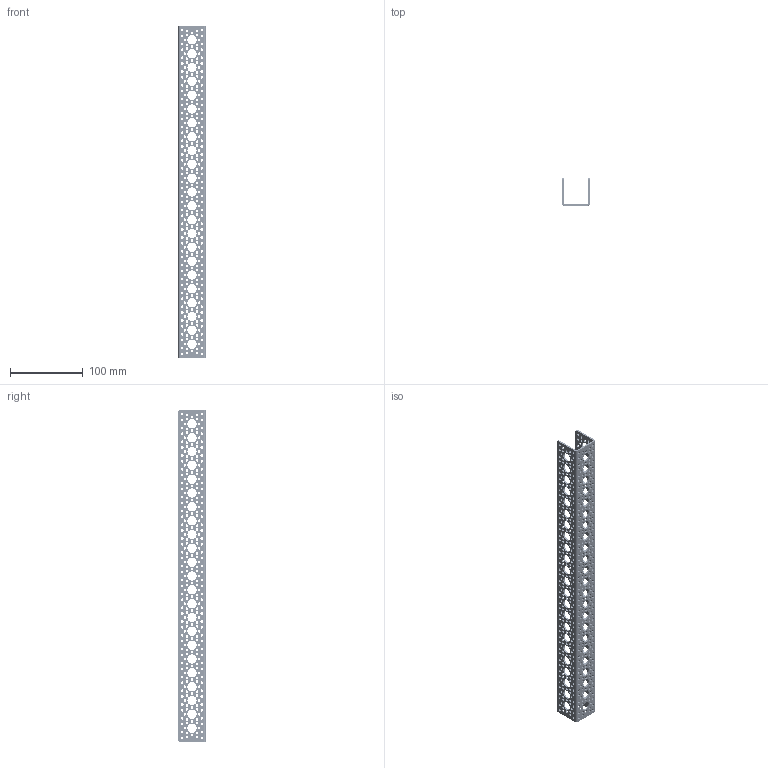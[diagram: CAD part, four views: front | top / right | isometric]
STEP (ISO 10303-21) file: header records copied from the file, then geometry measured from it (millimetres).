
FILE_DESCRIPTION (( 'STEP AP203' ), '1' );
FILE_NAME ('585462.STEP', '2014-07-14T21:50:34', ( 'Kyle' ), ( 'Microsoft' ), 'SwSTEP 2.0', 'SolidWorks 2014', '' );
FILE_SCHEMA (( 'CONFIG_CONTROL_DESIGN' ));
Length unit declared in the file: inch
Products named in the file (1): 585462
Bounding box: 38.1 x 38.1 x 457.2 mm (x, y, z)
Volume: 74998.1 mm3; surface area: 94943.9 mm2
Topology: 1 solids, 1 shells, 1726 faces, 5172 edges, 3448 vertices
Faces by surface type: cylinder 1716, plane 10
Entity records: 63847 total; most frequent: DIRECTION 12058, CARTESIAN_POINT 10347, ORIENTED_EDGE 10344, EDGE_CURVE 5172, AXIS2_PLACEMENT_3D 5159, VERTEX_POINT 3448, EDGE_LOOP 3436, CIRCLE 3432
